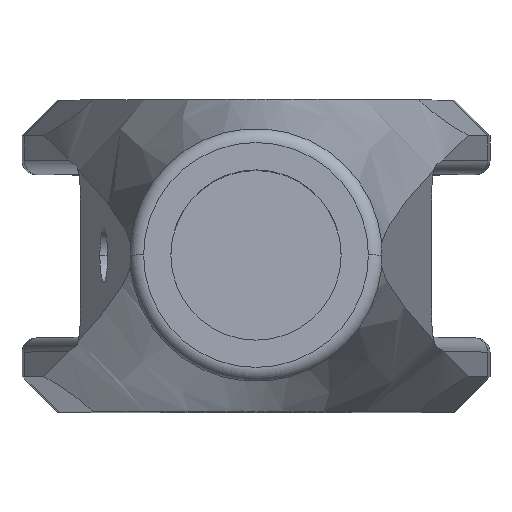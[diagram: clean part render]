
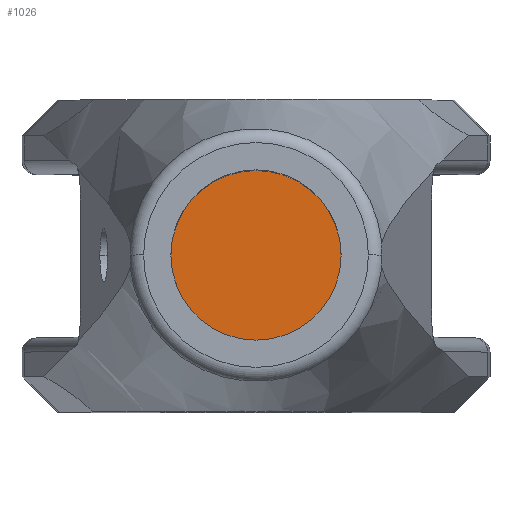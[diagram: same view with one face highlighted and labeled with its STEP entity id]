
A CAD part, top view. The second image highlights one B-rep face of the part: STEP entity #1026.
In plain terms, the highlighted planar face has unit normal (0, 0, 1).
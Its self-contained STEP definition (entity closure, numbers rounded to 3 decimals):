
#51 = EDGE_CURVE ( 'NONE', #1891, #1427, #591, .T. ) ;
#104 = AXIS2_PLACEMENT_3D ( 'NONE', #452, #457, #460 ) ;
#262 = EDGE_LOOP ( 'NONE', ( #1164, #1868 ) ) ;
#378 = CARTESIAN_POINT ( 'NONE',  ( 5.5, 0., -48. ) ) ;
#452 = CARTESIAN_POINT ( 'NONE',  ( 17.5, 0., -48. ) ) ;
#457 = DIRECTION ( 'NONE',  ( 0., 0., 1. ) ) ;
#460 = DIRECTION ( 'NONE',  ( 1., 0., 0. ) ) ;
#591 = CIRCLE ( 'NONE', #104, 12. ) ;
#653 = AXIS2_PLACEMENT_3D ( 'NONE', #758, #1890, #923 ) ;
#660 = CARTESIAN_POINT ( 'NONE',  ( 29.5, 0., -48. ) ) ;
#670 = FACE_OUTER_BOUND ( 'NONE', #262, .T. ) ;
#758 = CARTESIAN_POINT ( 'NONE',  ( 17.5, 0., -48. ) ) ;
#888 = CIRCLE ( 'NONE', #653, 12. ) ;
#923 = DIRECTION ( 'NONE',  ( 1., 0., 0. ) ) ;
#1026 = ADVANCED_FACE ( 'NONE', ( #670 ), #1544, .T. ) ;
#1164 = ORIENTED_EDGE ( 'NONE', *, *, #1581, .T. ) ;
#1250 = CARTESIAN_POINT ( 'NONE',  ( 17.5, 0., -48. ) ) ;
#1427 = VERTEX_POINT ( 'NONE', #660 ) ;
#1544 = PLANE ( 'NONE',  #1608 ) ;
#1555 = DIRECTION ( 'NONE',  ( 0., 0., 1. ) ) ;
#1571 = DIRECTION ( 'NONE',  ( 1., 0., 0. ) ) ;
#1581 = EDGE_CURVE ( 'NONE', #1427, #1891, #888, .T. ) ;
#1608 = AXIS2_PLACEMENT_3D ( 'NONE', #1250, #1555, #1571 ) ;
#1868 = ORIENTED_EDGE ( 'NONE', *, *, #51, .T. ) ;
#1890 = DIRECTION ( 'NONE',  ( 0., 0., 1. ) ) ;
#1891 = VERTEX_POINT ( 'NONE', #378 ) ;
